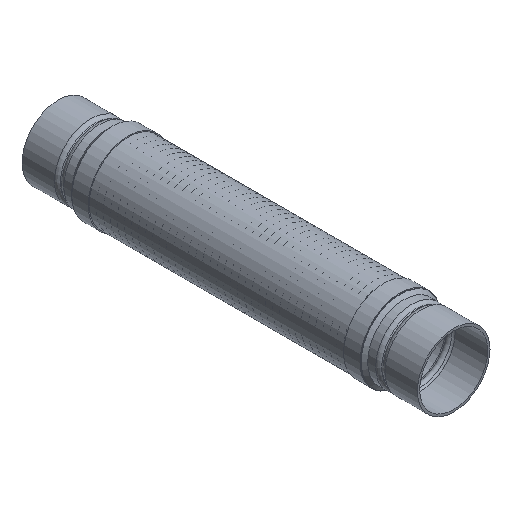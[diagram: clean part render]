
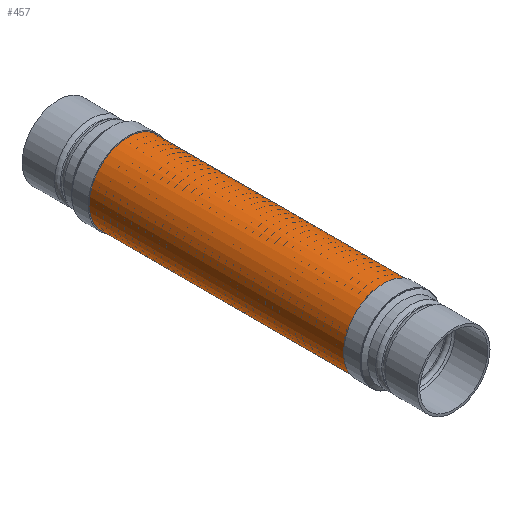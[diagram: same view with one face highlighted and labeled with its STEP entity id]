
A CAD part, isometric view. The second image highlights one B-rep face of the part: STEP entity #457.
In plain terms, the highlighted cylindrical face has radius 60.35 mm (diameter 120.701 mm), a full revolution.
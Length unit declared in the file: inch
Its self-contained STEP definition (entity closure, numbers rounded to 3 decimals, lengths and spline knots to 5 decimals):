
#423=CARTESIAN_POINT('',(-2.376,-8.75,0.));
#424=VERTEX_POINT('',#423);
#425=CARTESIAN_POINT('',(0.0,-8.75,0.0));
#426=DIRECTION('',(0.0,1.0,0.0));
#427=DIRECTION('',(1.0,0.0,0.0));
#428=AXIS2_PLACEMENT_3D('',#425,#426,#427);
#429=CIRCLE('',#428,2.376);
#430=EDGE_CURVE('',#424,#424,#429,.T.);
#438=CARTESIAN_POINT('',(0.0,0.0,0.0));
#439=DIRECTION('',(0.0,1.0,0.0));
#440=DIRECTION('',(1.0,0.0,0.0));
#441=AXIS2_PLACEMENT_3D('',#438,#439,#440);
#442=CYLINDRICAL_SURFACE('',#441,2.376);
#443=ORIENTED_EDGE('',*,*,#430,.T.);
#444=EDGE_LOOP('',(#443));
#445=FACE_OUTER_BOUND('',#444,.T.);
#446=CARTESIAN_POINT('',(-2.376,8.75,0.));
#447=VERTEX_POINT('',#446);
#448=CARTESIAN_POINT('',(0.0,8.75,0.0));
#449=DIRECTION('',(0.0,-1.0,0.0));
#450=DIRECTION('',(1.0,0.0,0.0));
#451=AXIS2_PLACEMENT_3D('',#448,#449,#450);
#452=CIRCLE('',#451,2.376);
#453=EDGE_CURVE('',#447,#447,#452,.T.);
#454=ORIENTED_EDGE('',*,*,#453,.T.);
#455=EDGE_LOOP('',(#454));
#456=FACE_BOUND('',#455,.T.);
#457=ADVANCED_FACE('',(#445,#456),#442,.T.);
